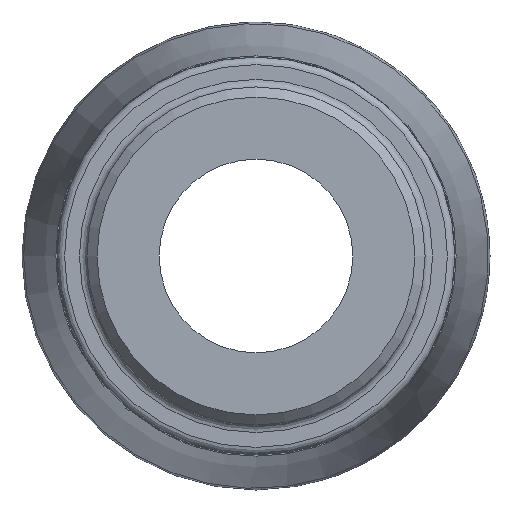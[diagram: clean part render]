
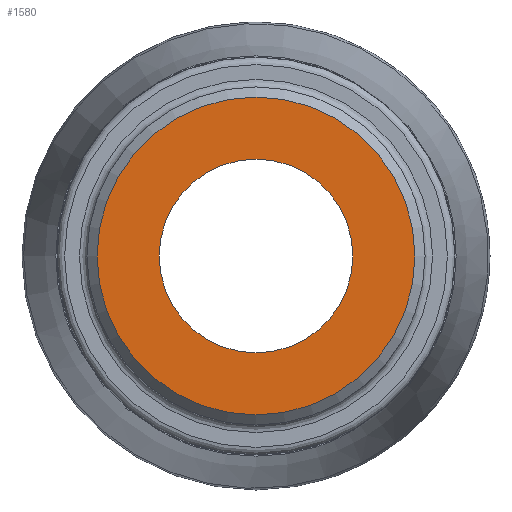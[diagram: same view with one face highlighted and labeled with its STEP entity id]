
A CAD part, left-side view. The second image highlights one B-rep face of the part: STEP entity #1580.
In plain terms, the highlighted planar face has unit normal (-1, 0, 0).
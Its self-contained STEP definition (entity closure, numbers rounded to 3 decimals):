
#261=PLANE('',#1734);
#352=FACE_BOUND('',#496,.T.);
#388=FACE_OUTER_BOUND('',#495,.T.);
#495=EDGE_LOOP('',(#1222));
#496=EDGE_LOOP('',(#1223));
#626=CIRCLE('',#1730,19.698);
#629=CIRCLE('',#1735,12.);
#736=VERTEX_POINT('',#2800);
#739=VERTEX_POINT('',#2808);
#914=EDGE_CURVE('',#736,#736,#626,.T.);
#917=EDGE_CURVE('',#739,#739,#629,.T.);
#1222=ORIENTED_EDGE('',*,*,#914,.F.);
#1223=ORIENTED_EDGE('',*,*,#917,.T.);
#1580=ADVANCED_FACE('',(#388,#352),#261,.T.);
#1730=AXIS2_PLACEMENT_3D('',#2801,#2013,#2014);
#1734=AXIS2_PLACEMENT_3D('',#2807,#2021,#2022);
#1735=AXIS2_PLACEMENT_3D('',#2809,#2023,#2024);
#2013=DIRECTION('center_axis',(1.,0.,0.));
#2014=DIRECTION('ref_axis',(0.,-1.,0.));
#2021=DIRECTION('center_axis',(-1.,0.,0.));
#2022=DIRECTION('ref_axis',(0.,0.,1.));
#2023=DIRECTION('center_axis',(1.,0.,0.));
#2024=DIRECTION('ref_axis',(0.,0.,-1.));
#2800=CARTESIAN_POINT('',(0.,19.698,0.));
#2801=CARTESIAN_POINT('Origin',(0.,0.,0.));
#2807=CARTESIAN_POINT('Origin',(0.,20.955,0.));
#2808=CARTESIAN_POINT('',(0.,12.,0.));
#2809=CARTESIAN_POINT('Origin',(0.,0.,0.));
